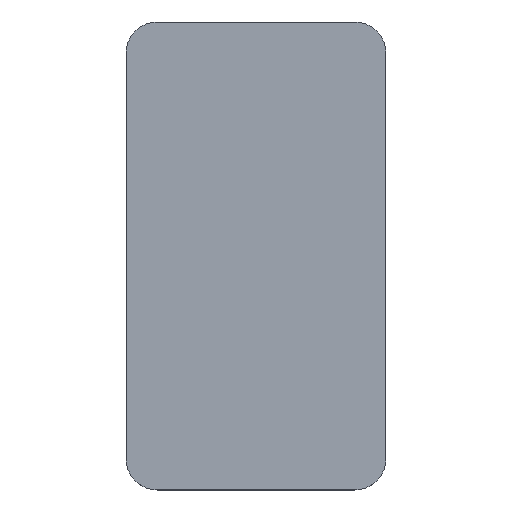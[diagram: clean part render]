
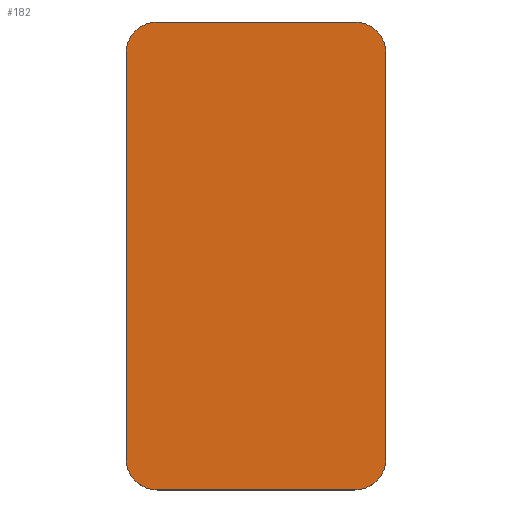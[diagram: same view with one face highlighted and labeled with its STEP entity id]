
A CAD part, top view. The second image highlights one B-rep face of the part: STEP entity #182.
In plain terms, the highlighted planar face has unit normal (0, 0, 1).
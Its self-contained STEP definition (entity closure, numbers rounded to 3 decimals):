
#16=CIRCLE('',#200,0.3);
#18=CIRCLE('',#204,0.3);
#20=CIRCLE('',#208,0.3);
#22=CIRCLE('',#212,0.3);
#36=FACE_OUTER_BOUND('',#46,.T.);
#46=EDGE_LOOP('',(#159,#160,#161,#162,#163,#164,#165,#166));
#48=LINE('',#275,#64);
#54=LINE('',#290,#70);
#58=LINE('',#302,#74);
#61=LINE('',#313,#77);
#64=VECTOR('',#220,1.);
#70=VECTOR('',#234,1.);
#74=VECTOR('',#246,1.);
#77=VECTOR('',#257,1.);
#80=VERTEX_POINT('',#272);
#81=VERTEX_POINT('',#274);
#84=VERTEX_POINT('',#282);
#86=VERTEX_POINT('',#288);
#88=VERTEX_POINT('',#294);
#90=VERTEX_POINT('',#300);
#92=VERTEX_POINT('',#306);
#94=VERTEX_POINT('',#311);
#96=EDGE_CURVE('',#80,#81,#48,.T.);
#101=EDGE_CURVE('',#80,#84,#16,.T.);
#104=EDGE_CURVE('',#84,#86,#54,.T.);
#107=EDGE_CURVE('',#86,#88,#18,.T.);
#110=EDGE_CURVE('',#88,#90,#58,.T.);
#113=EDGE_CURVE('',#90,#92,#20,.T.);
#115=EDGE_CURVE('',#94,#92,#61,.T.);
#118=EDGE_CURVE('',#94,#81,#22,.T.);
#159=ORIENTED_EDGE('',*,*,#96,.F.);
#160=ORIENTED_EDGE('',*,*,#101,.T.);
#161=ORIENTED_EDGE('',*,*,#104,.T.);
#162=ORIENTED_EDGE('',*,*,#107,.T.);
#163=ORIENTED_EDGE('',*,*,#110,.T.);
#164=ORIENTED_EDGE('',*,*,#113,.T.);
#165=ORIENTED_EDGE('',*,*,#115,.F.);
#166=ORIENTED_EDGE('',*,*,#118,.T.);
#172=PLANE('',#214);
#182=ADVANCED_FACE('',(#36),#172,.T.);
#200=AXIS2_PLACEMENT_3D('',#284,#228,#229);
#204=AXIS2_PLACEMENT_3D('',#296,#240,#241);
#208=AXIS2_PLACEMENT_3D('',#308,#252,#253);
#212=AXIS2_PLACEMENT_3D('',#317,#263,#264);
#214=AXIS2_PLACEMENT_3D('',#319,#267,#268);
#220=DIRECTION('',(0.,1.,0.));
#228=DIRECTION('center_axis',(0.,0.,1.));
#229=DIRECTION('ref_axis',(1.,0.,0.));
#234=DIRECTION('',(1.,0.,0.));
#240=DIRECTION('center_axis',(0.,0.,1.));
#241=DIRECTION('ref_axis',(1.,0.,0.));
#246=DIRECTION('',(0.,1.,0.));
#252=DIRECTION('center_axis',(0.,0.,1.));
#253=DIRECTION('ref_axis',(1.,0.,0.));
#257=DIRECTION('',(1.,0.,0.));
#263=DIRECTION('center_axis',(0.,0.,1.));
#264=DIRECTION('ref_axis',(1.,0.,0.));
#267=DIRECTION('center_axis',(0.,0.,1.));
#268=DIRECTION('ref_axis',(1.,0.,0.));
#272=CARTESIAN_POINT('',(-28.25,8.25,-12.71));
#274=CARTESIAN_POINT('',(-28.25,12.15,-12.71));
#275=CARTESIAN_POINT('',(-28.25,10.2,-12.71));
#282=CARTESIAN_POINT('',(-27.95,7.95,-12.71));
#284=CARTESIAN_POINT('Origin',(-27.95,8.25,-12.71));
#288=CARTESIAN_POINT('',(-26.05,7.95,-12.71));
#290=CARTESIAN_POINT('',(-27.,7.95,-12.71));
#294=CARTESIAN_POINT('',(-25.75,8.25,-12.71));
#296=CARTESIAN_POINT('Origin',(-26.05,8.25,-12.71));
#300=CARTESIAN_POINT('',(-25.75,12.15,-12.71));
#302=CARTESIAN_POINT('',(-25.75,10.2,-12.71));
#306=CARTESIAN_POINT('',(-26.05,12.45,-12.71));
#308=CARTESIAN_POINT('Origin',(-26.05,12.15,-12.71));
#311=CARTESIAN_POINT('',(-27.95,12.45,-12.71));
#313=CARTESIAN_POINT('',(-27.,12.45,-12.71));
#317=CARTESIAN_POINT('Origin',(-27.95,12.15,-12.71));
#319=CARTESIAN_POINT('Origin',(-27.,10.2,-12.71));
